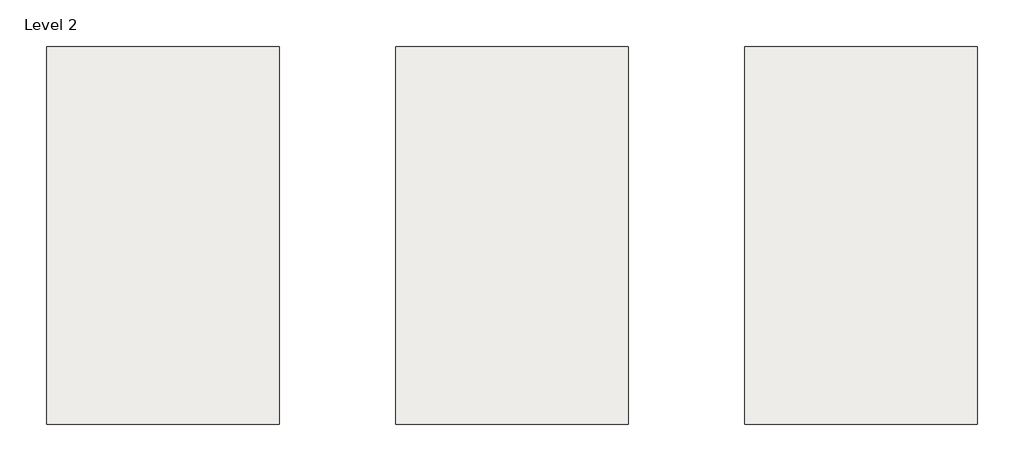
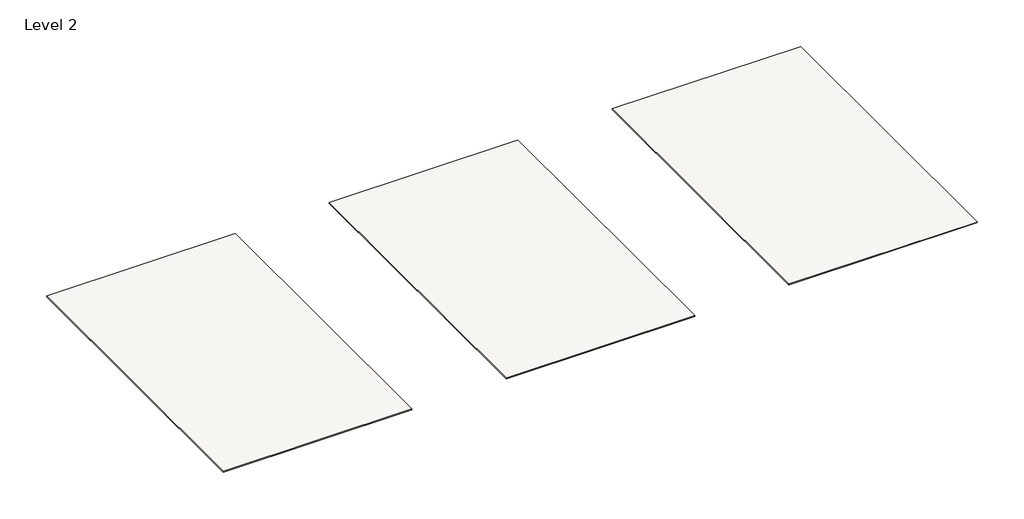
# One storey: 3 roofs.
"""IFC4 building model written with IfcOpenShell, lengths in millimetres."""

import ifcopenshell
import ifcopenshell.guid

model = None  # the IFC model being written
_history = None  # IfcOwnerHistory: only IFC2X3 demands one
_inside = {}  # id of a spatial element -> (the spatial element, [elements in it])
_under = {}  # id of a project, library or spatial element -> (it, [spatial elements below it])
_declared = {}  # id of a project -> (the project, [libraries it declares])
_typed = {}  # id of a type object -> (the type object, [elements of that type])
_made_of = {}  # id of a material, layer set ... -> (it, [elements and type objects made of it])


def new_model(schema):
    """Start an empty IFC model of exactly this schema.

    Asked for "IFC4X3", IfcOpenShell would pick the latest addendum, in which some entities
    have other attributes; the version numbers below select the first issue.
    IFC2X3 requires an IfcOwnerHistory on every rooted entity: one is made here for all.
    """
    global model, _history
    if schema == "IFC4X3":
        model = ifcopenshell.file(schema_version=(4, 3, 0, 0))
    else:
        model = ifcopenshell.file(schema=schema)
    _inside.clear()
    _under.clear()
    _declared.clear()
    _typed.clear()
    _made_of.clear()
    _history = None
    if model.schema == "IFC2X3":
        org = make("IfcOrganization", Name="unknown")
        user = make(
            "IfcPersonAndOrganization",
            ThePerson=make("IfcPerson", FamilyName="unknown"),
            TheOrganization=org,
        )
        app = make(
            "IfcApplication",
            ApplicationDeveloper=org,
            Version="unknown",
            ApplicationFullName="unknown",
            ApplicationIdentifier="unknown",
        )
        _history = make(
            "IfcOwnerHistory",
            OwningUser=user,
            OwningApplication=app,
            ChangeAction="ADDED",
            CreationDate=0,
        )
    return model


def make(cls, **values):
    """One entity of the class cls with the attributes given. An attribute that is None is left unset."""
    return model.create_entity(
        cls, **{name: value for name, value in values.items() if value is not None}
    )


def rooted(cls, **values):
    """An entity with a GlobalId (a new one), such as an element, a storey or a relation."""
    return make(cls, GlobalId=ifcopenshell.guid.new(), OwnerHistory=_history, **values)


def si_unit(unit_type, name, prefix=None):
    """IfcSIUnit, for example si_unit("LENGTHUNIT", "METRE", prefix="MILLI")."""
    return make("IfcSIUnit", UnitType=unit_type, Prefix=prefix, Name=name)


def assignment(units):
    """IfcUnitAssignment: the units of a project."""
    return None if units is None else make("IfcUnitAssignment", Units=units)


def point(xyz):
    """IfcCartesianPoint."""
    return None if xyz is None else make("IfcCartesianPoint", Coordinates=xyz)


def direction(xyz):
    """IfcDirection."""
    return None if xyz is None else make("IfcDirection", DirectionRatios=xyz)


def frame(location, z_axis=None, x_axis=None):
    """IfcAxis2Placement3D, a coordinate frame: its origin and axes. An axis left out is left unset."""
    return make(
        "IfcAxis2Placement3D",
        Location=point(location),
        Axis=direction(z_axis),
        RefDirection=direction(x_axis),
    )


def origin():
    """The frame at (0, 0, 0) with its axes left unset."""
    return frame((0.0, 0.0, 0.0))


def place(relative_to, where):
    """IfcLocalPlacement: puts the frame where relative to a parent placement (None: the world)."""
    return make(
        "IfcLocalPlacement", PlacementRelTo=relative_to, RelativePlacement=where
    )


def context(
    kind, dimensions, precision=None, world=None, true_north=None, identifier=None
):
    """IfcGeometricRepresentationContext, for example the 3D "Model" context."""
    return make(
        "IfcGeometricRepresentationContext",
        ContextIdentifier=identifier,
        ContextType=kind,
        CoordinateSpaceDimension=dimensions,
        Precision=precision,
        WorldCoordinateSystem=world,
        TrueNorth=true_north,
    )


def project(units=None, contexts=None):
    """IfcProject with its units and contexts."""
    return rooted(
        "IfcProject",
        Name="project",
        RepresentationContexts=contexts,
        UnitsInContext=assignment(units),
    )


def spatial(cls, under=None, at=None, **own):
    """A site, building, storey or space (cls), placed at a placement, below another one or the project."""
    s = rooted(cls, ObjectPlacement=at, **own)
    if under is not None:
        _under.setdefault(under.id(), (under, []))[1].append(s)
    return s


def polyline(points):
    """IfcPolyline through the points."""
    return make("IfcPolyline", Points=[point(p) for p in points])


def outline(outer, holes=None, kind="AREA"):
    """IfcArbitraryClosedProfileDef: a profile drawn as a closed curve; with holes, ...WithVoids."""
    if holes is None:
        return make("IfcArbitraryClosedProfileDef", ProfileType=kind, OuterCurve=outer)
    return make(
        "IfcArbitraryProfileDefWithVoids",
        ProfileType=kind,
        OuterCurve=outer,
        InnerCurves=holes,
    )


def extrude(swept, where, along, depth):
    """IfcExtrudedAreaSolid: the profile swept, set in the frame where, extruded along a direction by depth."""
    return make(
        "IfcExtrudedAreaSolid",
        SweptArea=swept,
        Position=where,
        ExtrudedDirection=direction(along),
        Depth=depth,
    )


def shape(context_of_items, identifier, shape_type, items):
    """IfcShapeRepresentation: the items that make up one representation, for example the "Body"."""
    return make(
        "IfcShapeRepresentation",
        ContextOfItems=context_of_items,
        RepresentationIdentifier=identifier,
        RepresentationType=shape_type,
        Items=items,
    )


def made_of(thing, what):
    """Note that an element or type object is made of a material, layer set ...; save() writes the relation."""
    if what is not None:
        _made_of.setdefault(what.id(), (what, []))[1].append(thing)
    return thing


def element(
    cls,
    number,
    at=None,
    inside=None,
    cuts=None,
    type_object=None,
    material=None,
    context=None,
    identifier="Body",
    shape_type=None,
    held_by="IfcProductDefinitionShape",
    body=None,
    shapes=None,
    **own,
):
    """One element of the class cls, such as IfcWall. Its Tag is "e" and its number.

    at: its placement. inside: the storey or other place that contains it. cuts: it is an
    opening in that element (IfcRelVoidsElement). A single representation is given by context,
    identifier, shape_type and body (its items); several are given by shapes. held_by: the class
    of the entity that holds the representations. save() writes the other relations.
    """
    e = rooted(cls, Tag="e%d" % number, ObjectPlacement=at, **own)
    if body is not None:
        shapes = [shape(context, identifier, shape_type, body)]
    if shapes is not None:
        e.Representation = make(held_by, Representations=shapes)
    if inside is not None:
        _inside.setdefault(inside.id(), (inside, []))[1].append(e)
    if cuts is not None:
        rooted(
            "IfcRelVoidsElement", RelatingBuildingElement=cuts, RelatedOpeningElement=e
        )
    if type_object is not None:
        _typed.setdefault(type_object.id(), (type_object, []))[1].append(e)
    return made_of(e, material)


def aggregate(whole, parts):
    """IfcRelAggregates: a whole, such as a stair, and the parts it consists of."""
    return rooted("IfcRelAggregates", RelatingObject=whole, RelatedObjects=parts)


def save(model, path):
    """Write the relations noted so far, then the file.

    IfcRelAggregates (storeys below a building ...), IfcRelContainedInSpatialStructure (elements
    in a storey), IfcRelDefinesByType, IfcRelAssociatesMaterial and IfcRelDeclares: one each for
    every whole, place, type object, material and project.
    """
    for whole, parts in _under.values():
        aggregate(whole, parts)
    for where, things in _inside.values():
        rooted(
            "IfcRelContainedInSpatialStructure",
            RelatedElements=things,
            RelatingStructure=where,
        )
    for kind, things in _typed.values():
        rooted("IfcRelDefinesByType", RelatedObjects=things, RelatingType=kind)
    for what, things in _made_of.values():
        rooted("IfcRelAssociatesMaterial", RelatedObjects=things, RelatingMaterial=what)
    for by, libraries in _declared.values():
        rooted("IfcRelDeclares", RelatingContext=by, RelatedDefinitions=libraries)
    model.write(path)


model = new_model("IFC4")

# Units and contexts
model_context = context("Model", 3, world=origin())
ifc_project = project(units=[si_unit("LENGTHUNIT", "METRE", prefix="MILLI")], contexts=[model_context])

# Site, building, storey
site = spatial("IfcSite", under=ifc_project)
building = spatial("IfcBuilding", under=site)
storey = spatial("IfcBuildingStorey", under=building, Name="Level 2", Elevation=3048.0)

# Roofs
placement = place(None, origin())
element("IfcRoof", 1, ObjectType="Metal_Panel-MBCI-SSR-Double_Lok-24", at=placement, inside=storey, context=model_context, shape_type="SweptSolid", body=[
    extrude(outline(polyline([(-19060.8970766, -10065.2306511), (-19060.8970766, 4768.3693489), (-9916.8970766, 4768.3693489), (-9916.8970766, -10065.2306511), (-19060.8970766, -10065.2306511)])), frame((0.0, 0.0, 3041.65), z_axis=(0.0, 0.0, 1.0), x_axis=(1.0, 0.0, 0.0)), (0.0, 0.0, 1.0), 50.8),
])
element("IfcRoof", 2, ObjectType="Metal_Panel-MBCI-SSR-Double_Lok-18", at=placement, inside=storey, context=model_context, shape_type="SweptSolid", body=[
    extrude(outline(polyline([(-5344.8970766, -10065.2306511), (-5344.8970766, 4768.3693489), (3799.1029234, 4768.3693489), (3799.1029234, -10065.2306511), (-5344.8970766, -10065.2306511)])), frame((0.0, 0.0, 3041.65), z_axis=(0.0, 0.0, 1.0), x_axis=(1.0, 0.0, 0.0)), (0.0, 0.0, 1.0), 50.8),
])
element("IfcRoof", 3, ObjectType="Metal_Panel-MBCI-SSR-Double_Lok-12", at=placement, inside=storey, context=model_context, shape_type="SweptSolid", body=[
    extrude(outline(polyline([(8371.1029234, -10065.2306511), (8371.1029234, 4768.3693489), (17515.1029234, 4768.3693489), (17515.1029234, -10065.2306511), (8371.1029234, -10065.2306511)])), frame((0.0, 0.0, 3041.65), z_axis=(0.0, 0.0, 1.0), x_axis=(1.0, 0.0, 0.0)), (0.0, 0.0, 1.0), 50.8),
])

save(model, "model.ifc")
